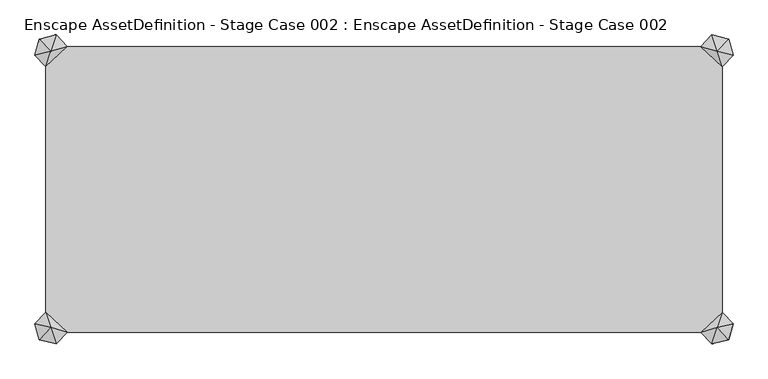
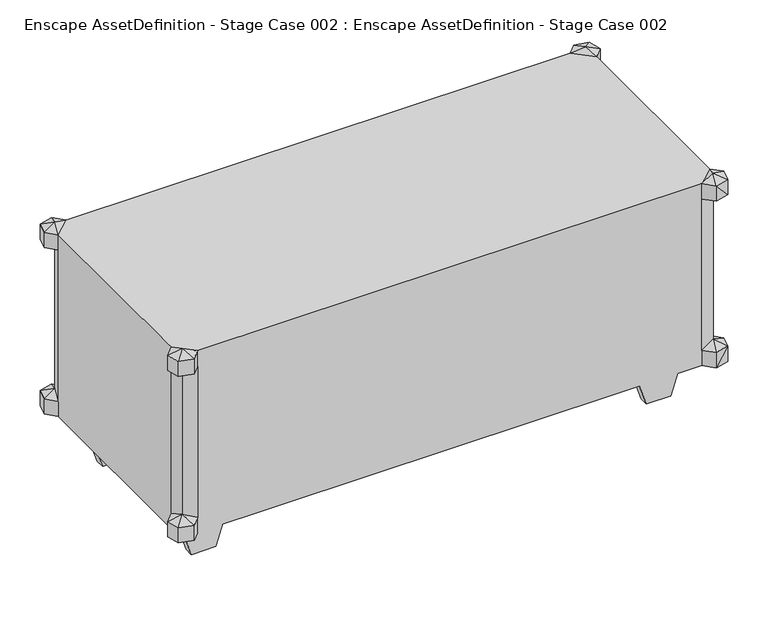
"""IFC4 building model written with IfcOpenShell, lengths in millimetres: geographic element geometry, Enscape AssetDefinition - Stage Case 002 : Enscape AssetDefinition - Stage Case 002."""

from ifc_helpers import new_model, si_unit, origin, place, context, project, spatial, triangles, source, transform, mapped, element, save


def enscape_assetdefinition_stage_case_002_enscape_640d6d8b(model_context):
    return source(origin(), model_context, "Body", "Tessellation", [
        triangles([(-554.3899979, 255.5609997, 105.3930037), (565.7760035, 255.5609997, 140.7749919), (595.2630117, 247.0130113, 94.9169989), (565.7760035, 255.5609997, 105.3930037), (585.2199838, 276.1009887, 105.3930037), (603.5540028, -214.9390061, 105.3930037), (603.5540028, -214.9390061, 140.7749919), (595.2529833, -242.010991, 95.5720007), (622.9980194, -235.4789951, 105.3930037), (622.9980194, -235.4789951, 140.7749919), (615.5000032, -263.3990024, 105.3339957), (565.7760035, -250.7019939, 105.3930037), (585.2199838, -271.2420011, 105.3930037), (585.2199838, -271.2420011, 140.7749919), (615.5359749, -263.4319945, 140.7170013), (595.2879739, -242.0430021, 485.3120195), (565.7760035, -250.7019939, 140.7749919), (595.2879739, -242.0430021, 152.0559894), (-554.3899979, -250.7019939, 140.7749919), (-554.3899979, -250.7019939, 496.5929807), (565.7760035, -250.7019939, 496.5929807), (-592.1679608, 219.7979937, 105.3930037), (-573.8340145, -271.2420011, 105.3930037), (-554.3899979, -250.7019939, 105.3930037), (-584.0119543, 247.0020018, 94.9169989), (-611.6120138, 240.3380008, 140.7749919), (-611.6120138, 240.3380008, 105.3930037), (-573.8340145, 276.1009887, 140.7749919), (-604.2590106, 268.389995, 105.4460074), (-573.8340145, 276.1009887, 105.3930037), (-604.22402, 268.3579838, 140.8289948), (-554.3899979, 255.5609997, 140.7749919), (-583.9759827, 246.9689914, 151.4009967), (-592.1679608, 219.7979937, 496.5929807), (-554.3899979, 255.5609997, 496.5929807), (-573.8340145, 276.1009887, 496.5929807), (-573.8340145, 276.1009887, 531.974978), (-604.22402, 268.3579838, 496.5389869), (-583.9759827, 246.9689914, 485.9669941), (-604.2590106, 268.389995, 531.9219652), (-611.6120138, 240.3380008, 531.974978), (-611.6120138, 240.3380008, 496.5929807), (-584.0119543, 247.0020018, 542.45101), (-592.1679608, 219.7979937, 531.974978), (-554.3899979, 255.5609997, 531.974978), (-592.1679608, -214.9390061, 531.974978), (-592.1679608, -214.9390061, 496.5929807), (-592.1679608, 219.7979937, 140.7749919), (-592.1679608, -214.9390061, 140.7749919), (-592.1679608, -214.9390061, 105.3930037), (-583.9859748, -242.0549927, 152.0559894), (-611.6120138, -235.4789951, 140.7749919), (-604.2349932, -263.4440032, 140.7170013), (-611.6120138, -235.4789951, 105.3930037), (-584.0219828, -242.0220005, 95.2920033), (-604.2699838, -263.4119921, 105.3339957), (-573.8340145, -271.2420011, 140.7749919), (-554.3899979, -250.7019939, 531.974978), (-573.8340145, -271.2420011, 496.5929807), (-583.9859748, -242.0549927, 485.3120195), (565.7760035, -250.7019939, 531.974978), (585.2199838, -271.2420011, 496.5929807), (585.2199838, -271.2420011, 531.974978), (622.9980194, -235.4789951, 496.5929807), (615.5359749, -263.4319945, 496.6510077), (615.5000032, -263.3990024, 532.033986), (622.9980194, -235.4789951, 531.974978), (595.2529833, -242.010991, 541.7960355), (603.5540028, -214.9390061, 531.974978), (565.7760035, 255.5609997, 531.974978), (-611.6120138, -235.4789951, 531.974978), (-584.0219828, -242.0220005, 542.0759966), (-573.8340145, -271.2420011, 531.974978), (-604.2699838, -263.4119921, 532.033986), (-604.2349932, -263.4440032, 496.6510077), (-611.6120138, -235.4789951, 496.5929807), (585.2199838, 276.1009887, 531.974978), (615.5109764, 268.4029847, 531.9219652), (615.5470207, 268.3700107, 496.5389869), (585.2199838, 276.1009887, 496.5929807), (565.7760035, 255.5609997, 496.5929807), (595.2980023, 246.9810001, 485.9669941), (622.9980194, 240.3380008, 496.5929807), (603.5540028, 219.7979937, 496.5929807), (603.5540028, 219.7979937, 531.974978), (603.5540028, -214.9390061, 496.5929807), (595.2630117, 247.0130113, 542.45101), (622.9980194, 240.3380008, 531.974978), (622.9980194, 240.3380008, 140.7749919), (615.5470207, 268.3700107, 140.8289948), (595.2980023, 246.9810001, 151.4009967), (603.5540028, 219.7979937, 140.7749919), (615.5109764, 268.4029847, 105.4460074), (585.2199838, 276.1009887, 140.7749919), (622.9980194, 240.3380008, 105.3930037), (603.5540028, 219.7979937, 105.3930037), (483.1059769, -180.0109963, 0.491), (483.0540178, -160.0739865, 0.491), (537.4659945, -179.8080109, 0.491), (554.2640244, -179.7460052, 52.1890019), (466.3090007, -180.073002, 52.1890019), (466.2559879, -160.1369914, 52.1890019), (537.4130181, -159.8720003, 0.491), (554.2110117, -159.8100128, 52.1890019), (-527.4659872, 181.8079978, 0.491), (-544.2640171, 181.7460104, 52.1890019), (-473.0539742, 162.0739916, 0.491), (-527.4130108, 161.8720054, 0.491), (-456.2560169, 162.1369965, 52.1890019), (-544.210968, 161.8099998, 52.1890019), (-456.3089933, 182.0729889, 52.1890019), (-473.1070232, 182.0110014, 0.491), (-527.4659872, -179.8080109, 0.491), (-473.1070232, -180.0109963, 0.491), (-456.3089933, -180.073002, 52.1890019), (-544.2640171, -179.7460052, 52.1890019), (-473.0539742, -160.0739865, 0.491), (-456.2560169, -160.1369914, 52.1890019), (-544.210968, -159.8100128, 52.1890019), (-527.4130108, -159.8720003, 0.491), (554.2110117, 161.8099998, 52.1890019), (554.2640244, 181.7460104, 52.1890019), (466.2559879, 162.1369965, 52.1890019), (483.0540178, 162.0739916, 0.491), (537.4130181, 161.8720054, 0.491), (466.3090007, 182.0729889, 52.1890019), (483.1059769, 182.0110014, 0.491), (537.4659945, 181.8079978, 0.491)], [[124, 127, 128], [126, 128, 127], [124, 128, 125], [121, 124, 125], [121, 123, 124], [123, 126, 127], [123, 127, 124], [126, 122, 128], [125, 128, 122], [122, 126, 123], [125, 122, 121], [122, 123, 121], [119, 117, 120], [120, 116, 119], [118, 119, 116], [119, 118, 117], [118, 114, 117], [117, 114, 113], [120, 113, 116], [117, 113, 120], [118, 115, 114], [115, 116, 113], [118, 116, 115], [115, 113, 114], [109, 112, 111], [106, 111, 112], [106, 110, 109], [106, 109, 111], [106, 108, 110], [109, 107, 112], [110, 108, 107], [110, 107, 109], [106, 105, 108], [105, 112, 107], [106, 112, 105], [105, 107, 108], [100, 104, 102], [100, 103, 104], [103, 102, 104], [103, 98, 102], [102, 98, 97], [100, 102, 101], [102, 97, 101], [100, 99, 103], [99, 97, 98], [99, 100, 101], [99, 98, 103], [99, 101, 97], [3, 95, 96], [3, 93, 95], [3, 5, 93], [2, 94, 5], [93, 5, 94], [93, 94, 90], [93, 90, 89], [93, 89, 95], [96, 95, 89], [96, 89, 92], [86, 7, 92], [7, 96, 92], [91, 92, 89], [91, 90, 94], [91, 89, 90], [91, 94, 2], [88, 78, 87], [88, 87, 85], [84, 92, 91], [86, 92, 84], [85, 86, 84], [83, 88, 85], [83, 85, 84], [83, 78, 88], [83, 79, 78], [82, 79, 83], [84, 91, 82], [82, 83, 84], [82, 91, 2], [82, 2, 81], [80, 79, 82], [80, 82, 81], [78, 79, 80], [87, 78, 77], [78, 80, 77], [77, 80, 81], [59, 75, 60], [60, 75, 76], [75, 71, 76], [75, 74, 71], [73, 74, 75], [73, 75, 59], [71, 74, 72], [72, 74, 73], [71, 72, 46], [76, 71, 46], [72, 73, 58], [58, 46, 72], [70, 45, 58], [87, 77, 70], [77, 81, 70], [70, 85, 87], [45, 70, 81], [69, 85, 70], [85, 69, 86], [61, 69, 70], [58, 61, 70], [68, 69, 61], [68, 67, 69], [67, 64, 86], [67, 86, 69], [68, 66, 67], [63, 66, 68], [63, 68, 61], [63, 65, 66], [65, 64, 67], [65, 67, 66], [64, 65, 16], [64, 16, 86], [16, 65, 62], [63, 62, 65], [62, 63, 61], [16, 62, 21], [62, 61, 21], [59, 60, 20], [73, 59, 20], [73, 20, 58], [61, 58, 20], [61, 20, 21], [60, 51, 19], [60, 19, 20], [51, 57, 19], [19, 57, 23], [51, 53, 57], [53, 23, 57], [53, 56, 23], [55, 23, 56], [55, 56, 54], [53, 54, 56], [51, 52, 53], [53, 52, 54], [55, 54, 50], [50, 54, 52], [51, 49, 52], [50, 52, 49], [48, 50, 49], [76, 46, 47], [60, 76, 47], [47, 49, 51], [47, 51, 60], [34, 48, 49], [34, 49, 47], [46, 34, 47], [44, 46, 58], [45, 44, 58], [46, 44, 34], [43, 44, 45], [41, 34, 44], [43, 41, 44], [42, 39, 34], [41, 42, 34], [42, 38, 39], [43, 40, 41], [40, 38, 42], [40, 42, 41], [37, 40, 43], [37, 43, 45], [39, 38, 36], [36, 38, 40], [36, 40, 37], [36, 37, 45], [36, 45, 35], [39, 36, 35], [45, 81, 35], [81, 2, 32], [81, 32, 35], [2, 1, 32], [35, 32, 33], [35, 33, 39], [33, 48, 34], [33, 34, 39], [33, 26, 48], [33, 31, 26], [33, 32, 28], [1, 28, 32], [33, 28, 31], [1, 30, 28], [29, 31, 28], [29, 28, 30], [29, 26, 31], [48, 26, 27], [29, 27, 26], [25, 29, 30], [25, 27, 29], [25, 30, 1], [25, 22, 27], [48, 27, 22], [1, 22, 25], [48, 22, 50], [55, 24, 23], [19, 23, 24], [24, 55, 50], [22, 1, 24], [24, 50, 22], [19, 24, 12], [16, 21, 17], [20, 19, 17], [20, 17, 21], [19, 12, 17], [12, 14, 17], [18, 17, 14], [16, 17, 18], [18, 7, 86], [18, 86, 16], [18, 10, 7], [18, 15, 10], [18, 14, 15], [13, 15, 14], [12, 13, 14], [13, 11, 15], [9, 10, 15], [9, 15, 11], [7, 10, 9], [8, 11, 13], [8, 9, 11], [8, 13, 12], [8, 6, 9], [7, 9, 6], [7, 6, 96], [12, 6, 8], [3, 4, 5], [2, 5, 4], [2, 4, 1], [12, 24, 4], [6, 12, 4], [4, 96, 6], [1, 4, 24], [4, 3, 96]]),
    ])


if __name__ == "__main__":
    model = new_model("IFC4")
    model_context = context("Model", 3, world=origin())
    ifc_project = project(units=[si_unit("LENGTHUNIT", "METRE", prefix="MILLI")], contexts=[model_context])
    site = spatial("IfcSite", under=ifc_project)
    building = spatial("IfcBuilding", under=site)
    placement = place(None, origin())
    enscape_assetdefinition_stage_case_002_enscape_shape = enscape_assetdefinition_stage_case_002_enscape_640d6d8b(model_context)
    element("IfcGeographicElement", 1, ObjectType="Enscape AssetDefinition - Stage Case 002 : Enscape AssetDefinition - Stage Case 002", at=placement, inside=building, context=model_context, shape_type="MappedRepresentation", body=[
        mapped(enscape_assetdefinition_stage_case_002_enscape_shape, transform((0.0, 0.0, 0.0), x_axis=(1.0, 0.0, 0.0), y_axis=(0.0, 1.0, 0.0), z_axis=(0.0, 0.0, 1.0))),
    ])
    save(model, "model.ifc")
